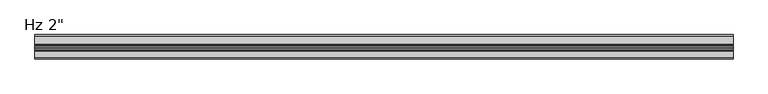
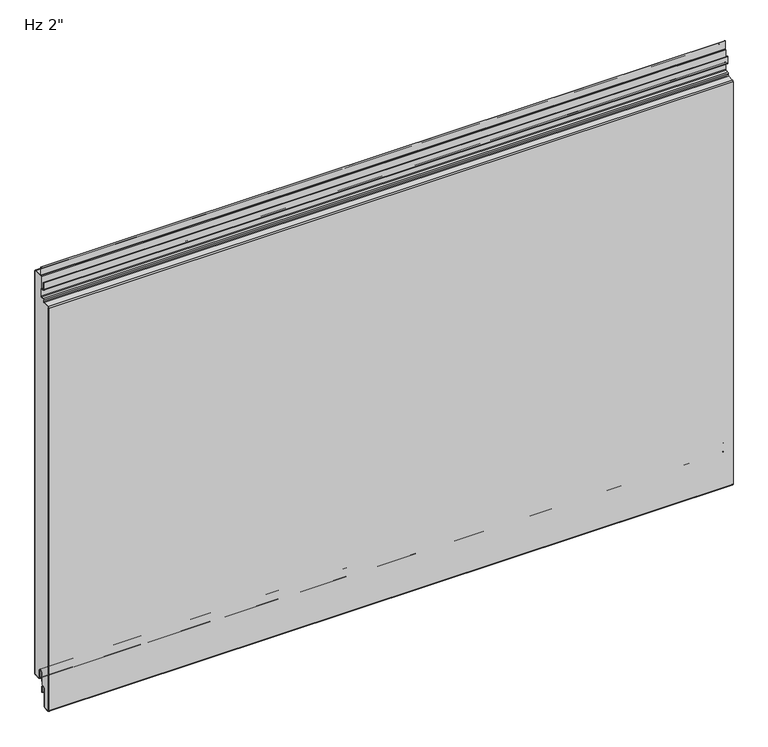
"""IFC4 building model written with IfcOpenShell, lengths in millimetres: plate geometry."""

from ifc_helpers import new_model, si_unit, point, frame, frame_2d, origin, place, context, project, spatial, polyline, circle_curve, ellipse_curve, trimmed, segment, composite_curve, outline, extrude, source, transform, mapped, element, save
from ifc_brep_helpers import plane_surface, cylinder_surface, revolved_surface, extruded_surface, advanced_brep


def plate_d5d736a9(model_context):
    return source(origin(), model_context, "Body", "SolidModel", [
        extrude(outline(composite_curve([segment(polyline([(-22.8125, 869.3620957), (-22.8125, 912.60625), (-2.38125, 912.60625)]), True, "CONTINUOUS"), segment(trimmed(circle_curve(frame_2d((-2.38125, 911.225)), 1.38125), [point((-2.38125, 912.60625))], [point((-1.0, 911.225))], False, "CARTESIAN"), True, "CONTINUOUS"), segment(polyline([(-1.0, 911.225), (-1.0, 3.175)]), True, "CONTINUOUS"), segment(trimmed(circle_curve(frame_2d((-2.38125, 3.175)), 1.38125), [point((-1.0, 3.175))], [point((-2.38125, 1.79375))], False, "CARTESIAN"), True, "CONTINUOUS"), segment(polyline([(-2.38125, 1.79375), (-15.08125, 1.79375)]), True, "CONTINUOUS"), segment(trimmed(circle_curve(frame_2d((-15.08125, 3.175)), 1.38125), [point((-15.08125, 1.79375))], [point((-16.4625, 3.175))], False, "CARTESIAN"), True, "CONTINUOUS"), segment(polyline([(-16.4625, 3.175), (-16.4625, 19.05)]), True, "CONTINUOUS"), segment(trimmed(circle_curve(frame_2d((-21.43125, 19.05)), 4.96875), [point((-16.4625, 19.05))], [point((-26.4, 19.05))], True, "CARTESIAN"), True, "CONTINUOUS"), segment(polyline([(-26.4, 19.05), (-26.4, -6.9375), (-30.95625, -6.9375)]), True, "CONTINUOUS"), segment(trimmed(circle_curve(frame_2d((-30.95625, -11.90625)), 4.96875), [point((-30.95625, -6.9375))], [point((-35.925, -11.90625))], True, "CARTESIAN"), True, "CONTINUOUS"), segment(polyline([(-35.925, -11.90625), (-35.925, -50.0895546)]), True, "CONTINUOUS"), segment(trimmed(circle_curve(frame_2d((-37.30625, -50.0895546)), 1.38125), [point((-35.925, -50.0895546))], [point((-37.233961, -51.4689117))], False, "CARTESIAN"), True, "CONTINUOUS"), segment(polyline([(-37.233961, -51.4689117), (-48.346461, -52.0512931)]), True, "CONTINUOUS"), segment(trimmed(circle_curve(frame_2d((-48.41875, -50.6719361)), 1.38125), [point((-48.346461, -52.0512931))], [point((-49.8, -50.6719361))], False, "CARTESIAN"), True, "CONTINUOUS"), segment(polyline([(-49.8, -50.6719361), (-49.8, 857.3715281)]), True, "CONTINUOUS"), segment(trimmed(circle_curve(frame_2d((-48.41875, 857.3715281)), 1.38125), [point((-49.8, 857.3715281))], [point((-48.491039, 858.7508852))], False, "CARTESIAN"), True, "CONTINUOUS"), segment(polyline([(-48.491039, 858.7508852), (-34.7895807, 859.4689482)]), True, "CONTINUOUS"), segment(trimmed(circle_curve(frame_2d((-34.925, 862.0529021)), 2.5875), [point((-34.7895807, 859.4689482))], [point((-32.3375, 862.0529021))], True, "CARTESIAN"), True, "CONTINUOUS"), segment(polyline([(-32.3375, 862.0529021), (-32.3375, 865.0967085)]), True, "CONTINUOUS"), segment(trimmed(circle_curve(frame_2d((-30.95625, 865.0967085)), 1.38125), [point((-32.3375, 865.0967085))], [point((-31.028539, 866.4760655))], False, "CARTESIAN"), True, "CONTINUOUS"), segment(polyline([(-31.028539, 866.4760655), (-25.2645807, 866.7781418)]), True, "CONTINUOUS"), segment(trimmed(circle_curve(frame_2d((-25.4, 869.3620957)), 2.5875), [point((-25.2645807, 866.7781418))], [point((-22.8125, 869.3620957))], True, "CARTESIAN"), True, "CONTINUOUS")], self_intersect=False)), frame((-730.0, 0.0, 0.0), z_axis=(1.0, 0.0, 0.0), x_axis=(0.0, 1.0, 0.0)), (0.0, 0.0, 1.0), 1460.0),
        extrude(outline(composite_curve([segment(polyline([(-25.4, 0.79375), (-26.4, 0.79375), (-26.4, 19.05)]), True, "CONTINUOUS"), segment(trimmed(circle_curve(frame_2d((-21.43125, 19.05)), 4.96875), [point((-26.4, 19.05))], [point((-16.4625, 19.05))], False, "CARTESIAN"), True, "CONTINUOUS"), segment(polyline([(-16.4625, 19.05), (-16.4625, 3.175)]), True, "CONTINUOUS"), segment(trimmed(circle_curve(frame_2d((-15.08125, 3.175)), 1.38125), [point((-16.4625, 3.175))], [point((-15.08125, 1.79375))], True, "CARTESIAN"), True, "CONTINUOUS"), segment(polyline([(-15.08125, 1.79375), (-2.38125, 1.79375)]), True, "CONTINUOUS"), segment(trimmed(circle_curve(frame_2d((-2.38125, 3.175)), 1.38125), [point((-2.38125, 1.79375))], [point((-1.0, 3.175))], True, "CARTESIAN"), True, "CONTINUOUS"), segment(polyline([(-1.0, 3.175), (-1.0, 911.225)]), True, "CONTINUOUS"), segment(trimmed(circle_curve(frame_2d((-2.38125, 911.225)), 1.38125), [point((-1.0, 911.225))], [point((-2.38125, 912.60625))], True, "CARTESIAN"), True, "CONTINUOUS"), segment(polyline([(-2.38125, 912.60625), (-19.446875, 912.60625)]), True, "CONTINUOUS"), segment(trimmed(circle_curve(frame_2d((-19.446875, 915.19375)), 2.5875), [point((-19.446875, 912.60625))], [point((-22.034375, 915.19375))], False, "CARTESIAN"), True, "CONTINUOUS"), segment(polyline([(-22.034375, 915.19375), (-22.034375, 932.65625), (-21.034375, 932.65625), (-21.034375, 915.19375)]), True, "CONTINUOUS"), segment(trimmed(circle_curve(frame_2d((-19.446875, 915.19375)), 1.5875), [point((-21.034375, 915.19375))], [point((-19.446875, 913.60625))], True, "CARTESIAN"), True, "CONTINUOUS"), segment(polyline([(-19.446875, 913.60625), (-2.38125, 913.60625)]), True, "CONTINUOUS"), segment(trimmed(circle_curve(frame_2d((-2.38125, 911.225)), 2.38125), [point((-2.38125, 913.60625))], [point((0.0, 911.225))], False, "CARTESIAN"), True, "CONTINUOUS"), segment(polyline([(0.0, 911.225), (0.0, 3.175)]), True, "CONTINUOUS"), segment(trimmed(circle_curve(frame_2d((-2.38125, 3.175)), 2.38125), [point((0.0, 3.175))], [point((-2.38125, 0.79375))], False, "CARTESIAN"), True, "CONTINUOUS"), segment(polyline([(-2.38125, 0.79375), (-15.08125, 0.79375)]), True, "CONTINUOUS"), segment(trimmed(circle_curve(frame_2d((-15.08125, 3.175)), 2.38125), [point((-15.08125, 0.79375))], [point((-17.4625, 3.175))], False, "CARTESIAN"), True, "CONTINUOUS"), segment(polyline([(-17.4625, 3.175), (-17.4625, 19.05)]), True, "CONTINUOUS"), segment(trimmed(circle_curve(frame_2d((-21.43125, 19.05)), 3.96875), [point((-17.4625, 19.05))], [point((-25.4, 19.05))], True, "CARTESIAN"), True, "CONTINUOUS"), segment(polyline([(-25.4, 19.05), (-25.4, 0.79375)]), True, "CONTINUOUS")], self_intersect=False)), frame((-730.0, 0.0, 0.0), z_axis=(1.0, 0.0, 0.0), x_axis=(0.0, 1.0, 0.0)), (0.0, 0.0, 1.0), 1460.0),
        advanced_brep(
        [(-730.0, -25.4, -23.2314549), (-730.0, -26.9875, -23.2314549), (-730.0, -26.9875, -11.9205174), (-730.0, -34.925, -11.9205174), (-730.0, -34.925, -50.1038221), (-730.0, -37.181625, -52.4818086), (-730.0, -48.294125, -53.0641901), (-730.0, -50.8, -50.6862035), (-730.0, -50.8, 857.3572607), (-730.0, -48.543375, 859.7352473), (-730.0, -34.8419167, 860.4533103), (-730.0, -33.3375, 862.0386347), (-730.0, -33.3375, 865.0824411), (-730.0, -31.080875, 867.4604276), (-730.0, -25.3169167, 867.7625039), (-730.0, -23.8125, 869.3478283), (-730.0, -23.8125, 884.2232326), (-730.0, -25.4, 885.8107326), (-730.0, -29.5671875, 885.8107326), (-730.0, -31.9484375, 888.1919826), (-730.0, -31.9484375, 902.6836032), (-730.0, -30.1546875, 902.6836032), (-730.0, -30.1546875, 892.9544826), (-730.0, -30.9484375, 892.9544826), (-730.0, -30.9484375, 888.1919826), (-730.0, -29.5671875, 886.8107326), (-730.0, -25.4, 886.8107326), (-730.0, -22.8125, 884.2232326), (-730.0, -22.8125, 869.3478283), (-730.0, -25.2645807, 866.7638744), (-730.0, -31.028539, 866.4617981), (-730.0, -32.3375, 865.0824411), (-730.0, -32.3375, 862.0386347), (-730.0, -34.7895807, 859.4546807), (-730.0, -48.491039, 858.7366177), (-730.0, -49.8, 857.3572607), (-730.0, -49.8, -50.6862035), (-730.0, -48.346461, -52.0655606), (-730.0, -37.233961, -51.4831791), (-730.0, -35.925, -50.1038221), (-730.0, -35.925, -11.9205174), (-730.0, -25.9875, -11.9205174), (-730.0, -26.19375, -13.5080174), (-730.0, -25.4, -13.5080174), (730.0, -25.4, -23.2314549), (730.0, -25.4, -13.5080174), (730.0, -26.19375, -13.5080174), (730.0, -25.9875, -11.9205174), (730.0, -35.925, -11.9205174), (730.0, -35.925, -50.1038221), (730.0, -37.233961, -51.4831791), (730.0, -48.346461, -52.0655606), (730.0, -49.8, -50.6862035), (730.0, -49.8, 857.3572607), (730.0, -48.491039, 858.7366177), (730.0, -34.7895807, 859.4546807), (730.0, -32.3375, 862.0386347), (730.0, -32.3375, 865.0824411), (730.0, -31.028539, 866.4617981), (730.0, -25.2645807, 866.7638744), (730.0, -22.8125, 869.3478283), (730.0, -22.8125, 884.2232326), (730.0, -25.4, 886.8107326), (730.0, -29.5671875, 886.8107326), (730.0, -30.9484375, 888.1919826), (730.0, -30.9484375, 892.9544826), (730.0, -30.1546875, 892.9544826), (730.0, -30.1546875, 902.6836032), (730.0, -31.9484375, 902.6836032), (730.0, -31.9484375, 888.1919826), (730.0, -29.5671875, 885.8107326), (730.0, -25.4, 885.8107326), (730.0, -23.8125, 884.2232326), (730.0, -23.8125, 869.3478283), (730.0, -25.3169167, 867.7625039), (730.0, -31.080875, 867.4604276), (730.0, -33.3375, 865.0824411), (730.0, -33.3375, 862.0386347), (730.0, -34.8419167, 860.4533103), (730.0, -48.543375, 859.7352473), (730.0, -50.8, 857.3572607), (730.0, -50.8, -50.6862035), (730.0, -48.294125, -53.0641901), (730.0, -37.181625, -52.4818086), (730.0, -34.925, -50.1038221), (730.0, -34.925, -11.9205174), (730.0, -26.9875, -11.9205174), (730.0, -26.9875, -23.2314549)],
        [
            (0, 1, circle_curve(frame((-730.0, -26.19375, -23.2314549), z_axis=(-1.0, 0.0, 0.0), x_axis=(0.0, 0.0, 1.0)), 0.79375)),
            (1, 2),
            (2, 3, circle_curve(frame((-730.0, -30.95625, -11.9205174), z_axis=(1.0, 0.0, 0.0), x_axis=(0.0, 0.0, 1.0)), 3.96875)),
            (3, 4),
            (4, 5, circle_curve(frame((-730.0, -37.30625, -50.1038221), z_axis=(-1.0, 0.0, 0.0), x_axis=(0.0, 0.0, 1.0)), 2.38125)),
            (5, 6),
            (6, 7, circle_curve(frame((-730.0, -48.41875, -50.6862035), z_axis=(-1.0, 0.0, 0.0), x_axis=(0.0, 0.0, 1.0)), 2.38125)),
            (7, 8),
            (8, 9, circle_curve(frame((-730.0, -48.41875, 857.3572607), z_axis=(-1.0, 0.0, 0.0), x_axis=(0.0, 0.0, 1.0)), 2.38125)),
            (9, 10),
            (10, 11, circle_curve(frame((-730.0, -34.925, 862.0386347), z_axis=(1.0, 0.0, 0.0), x_axis=(0.0, 0.0, 1.0)), 1.5875)),
            (11, 12),
            (12, 13, circle_curve(frame((-730.0, -30.95625, 865.0824411), z_axis=(-1.0, 0.0, 0.0), x_axis=(0.0, 0.0, 1.0)), 2.38125)),
            (13, 14),
            (14, 15, circle_curve(frame((-730.0, -25.4, 869.3478283), z_axis=(1.0, 0.0, 0.0), x_axis=(0.0, 0.0, 1.0)), 1.5875)),
            (15, 16),
            (16, 17, circle_curve(frame((-730.0, -25.4, 884.2232326), z_axis=(1.0, 0.0, 0.0), x_axis=(0.0, 0.0, 1.0)), 1.5875)),
            (17, 18),
            (18, 19, circle_curve(frame((-730.0, -29.5671875, 888.1919826), z_axis=(-1.0, 0.0, 0.0), x_axis=(0.0, 0.0, 1.0)), 2.38125)),
            (19, 20),
            (20, 21, ellipse_curve(frame((-730.0, -31.0515625, 902.6836032), z_axis=(-1.0, 0.0, 0.0), x_axis=(0.0, 1.0, 0.0)), 0.896875, 0.7852275)),
            (21, 22),
            (22, 23),
            (23, 24),
            (24, 25, circle_curve(frame((-730.0, -29.5671875, 888.1919826), z_axis=(1.0, 0.0, 0.0), x_axis=(0.0, 0.0, 1.0)), 1.38125)),
            (25, 26),
            (26, 27, circle_curve(frame((-730.0, -25.4, 884.2232326), z_axis=(-1.0, 0.0, 0.0), x_axis=(0.0, 0.0, 1.0)), 2.5875)),
            (27, 28),
            (28, 29, circle_curve(frame((-730.0, -25.4, 869.3478283), z_axis=(-1.0, 0.0, 0.0), x_axis=(0.0, 0.0, 1.0)), 2.5875)),
            (29, 30),
            (30, 31, circle_curve(frame((-730.0, -30.95625, 865.0824411), z_axis=(1.0, 0.0, 0.0), x_axis=(0.0, 0.0, 1.0)), 1.38125)),
            (31, 32),
            (32, 33, circle_curve(frame((-730.0, -34.925, 862.0386347), z_axis=(-1.0, 0.0, 0.0), x_axis=(0.0, 0.0, 1.0)), 2.5875)),
            (33, 34),
            (34, 35, circle_curve(frame((-730.0, -48.41875, 857.3572607), z_axis=(1.0, 0.0, 0.0), x_axis=(0.0, 0.0, 1.0)), 1.38125)),
            (35, 36),
            (36, 37, circle_curve(frame((-730.0, -48.41875, -50.6862035), z_axis=(1.0, 0.0, 0.0), x_axis=(0.0, 0.0, 1.0)), 1.38125)),
            (37, 38),
            (38, 39, circle_curve(frame((-730.0, -37.30625, -50.1038221), z_axis=(1.0, 0.0, 0.0), x_axis=(0.0, 0.0, 1.0)), 1.38125)),
            (39, 40),
            (40, 41, circle_curve(frame((-730.0, -30.95625, -11.9205174), z_axis=(-1.0, 0.0, 0.0), x_axis=(0.0, 0.0, 1.0)), 4.96875)),
            (41, 42),
            (42, 43),
            (43, 0),
            (44, 45),
            (45, 46),
            (46, 47),
            (47, 48, circle_curve(frame((730.0, -30.95625, -11.9205174), z_axis=(1.0, 0.0, 0.0), x_axis=(0.0, 0.0, 1.0)), 4.96875)),
            (48, 49),
            (49, 50, circle_curve(frame((730.0, -37.30625, -50.1038221), z_axis=(-1.0, 0.0, 0.0), x_axis=(0.0, 0.0, 1.0)), 1.38125)),
            (50, 51),
            (51, 52, circle_curve(frame((730.0, -48.41875, -50.6862035), z_axis=(-1.0, 0.0, 0.0), x_axis=(0.0, 0.0, 1.0)), 1.38125)),
            (52, 53),
            (53, 54, circle_curve(frame((730.0, -48.41875, 857.3572607), z_axis=(-1.0, 0.0, 0.0), x_axis=(0.0, 0.0, 1.0)), 1.38125)),
            (54, 55),
            (55, 56, circle_curve(frame((730.0, -34.925, 862.0386347), z_axis=(1.0, 0.0, 0.0), x_axis=(0.0, 0.0, 1.0)), 2.5875)),
            (56, 57),
            (57, 58, circle_curve(frame((730.0, -30.95625, 865.0824411), z_axis=(-1.0, 0.0, 0.0), x_axis=(0.0, 0.0, 1.0)), 1.38125)),
            (58, 59),
            (59, 60, circle_curve(frame((730.0, -25.4, 869.3478283), z_axis=(1.0, 0.0, 0.0), x_axis=(0.0, 0.0, 1.0)), 2.5875)),
            (60, 61),
            (61, 62, circle_curve(frame((730.0, -25.4, 884.2232326), z_axis=(1.0, 0.0, 0.0), x_axis=(0.0, 0.0, 1.0)), 2.5875)),
            (62, 63),
            (63, 64, circle_curve(frame((730.0, -29.5671875, 888.1919826), z_axis=(-1.0, 0.0, 0.0), x_axis=(0.0, 0.0, 1.0)), 1.38125)),
            (64, 65),
            (65, 66),
            (66, 67),
            (67, 68, ellipse_curve(frame((730.0, -31.0515625, 902.6836032), z_axis=(1.0, 0.0, 0.0), x_axis=(0.0, 1.0, 0.0)), 0.896875, 0.7852275)),
            (68, 69),
            (69, 70, circle_curve(frame((730.0, -29.5671875, 888.1919826), z_axis=(1.0, 0.0, 0.0), x_axis=(0.0, 0.0, 1.0)), 2.38125)),
            (70, 71),
            (71, 72, circle_curve(frame((730.0, -25.4, 884.2232326), z_axis=(-1.0, 0.0, 0.0), x_axis=(0.0, 0.0, 1.0)), 1.5875)),
            (72, 73),
            (73, 74, circle_curve(frame((730.0, -25.4, 869.3478283), z_axis=(-1.0, 0.0, 0.0), x_axis=(0.0, 0.0, 1.0)), 1.5875)),
            (74, 75),
            (75, 76, circle_curve(frame((730.0, -30.95625, 865.0824411), z_axis=(1.0, 0.0, 0.0), x_axis=(0.0, 0.0, 1.0)), 2.38125)),
            (76, 77),
            (77, 78, circle_curve(frame((730.0, -34.925, 862.0386347), z_axis=(-1.0, 0.0, 0.0), x_axis=(0.0, 0.0, 1.0)), 1.5875)),
            (78, 79),
            (79, 80, circle_curve(frame((730.0, -48.41875, 857.3572607), z_axis=(1.0, 0.0, 0.0), x_axis=(0.0, 0.0, 1.0)), 2.38125)),
            (80, 81),
            (81, 82, circle_curve(frame((730.0, -48.41875, -50.6862035), z_axis=(1.0, 0.0, 0.0), x_axis=(0.0, 0.0, 1.0)), 2.38125)),
            (82, 83),
            (83, 84, circle_curve(frame((730.0, -37.30625, -50.1038221), z_axis=(1.0, 0.0, 0.0), x_axis=(0.0, 0.0, 1.0)), 2.38125)),
            (84, 85),
            (85, 86, circle_curve(frame((730.0, -30.95625, -11.9205174), z_axis=(-1.0, 0.0, 0.0), x_axis=(0.0, 0.0, 1.0)), 3.96875)),
            (86, 87),
            (87, 44, circle_curve(frame((730.0, -26.19375, -23.2314549), z_axis=(1.0, 0.0, 0.0), x_axis=(0.0, 0.0, 1.0)), 0.79375)),
            (23, 65),
            (64, 24),
            (28, 60),
            (59, 29),
            (58, 30),
            (57, 31),
            (56, 32),
            (55, 33),
            (54, 34),
            (53, 35),
            (52, 36),
            (51, 37),
            (50, 38),
            (49, 39),
            (48, 40),
            (43, 45),
            (44, 0),
            (87, 1),
            (86, 2),
            (85, 3),
            (84, 4),
            (83, 5),
            (82, 6),
            (81, 7),
            (80, 8),
            (79, 9),
            (78, 10),
            (77, 11),
            (76, 12),
            (75, 13),
            (74, 14),
            (73, 15),
            (72, 16),
            (71, 17),
            (70, 18),
            (69, 19),
            (68, 20),
            (27, 61),
            (26, 62),
            (25, 63),
            (21, 67),
            (66, 22),
            (41, 47),
            (46, 42),
        ],
        [
            plane_surface(frame((-730.0, -50.8, 457.2), z_axis=(-1.0, 0.0, 0.0), x_axis=(0.0, -1.0, 0.0))),
            plane_surface(frame((730.0, -50.8, 457.2), z_axis=(1.0, 0.0, 0.0), x_axis=(0.0, -1.0, 0.0))),
            plane_surface(frame((-730.0, -30.9484375, 888.1919826), z_axis=(0.0, 1.0, 0.0), x_axis=(1.0, 0.0, 0.0))),
            cylinder_surface(frame((-730.0, -25.4, 869.3478283), z_axis=(-1.0, 0.0, 0.0), x_axis=(0.0, 0.0, 1.0)), 2.5875),
            plane_surface(frame((-730.0, -31.028539, 866.4617981), z_axis=(0.0, 0.0523359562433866, -0.9986295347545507), x_axis=(1.0, 0.0, 0.0))),
            revolved_surface(polyline([(730.0, -30.95625, 866.4636911), (-730.0, -30.95625, 866.4636911)]), (-730.0, -30.95625, 865.0824411), (1.0, 0.0, 0.0)),
            plane_surface(frame((-730.0, -32.3375, 862.0386347), z_axis=(0.0, 1.0, 0.0), x_axis=(1.0, 0.0, 0.0))),
            cylinder_surface(frame((-730.0, -34.925, 862.0386347), z_axis=(-1.0, 0.0, 0.0), x_axis=(0.0, 0.0, 1.0)), 2.5875),
            plane_surface(frame((-730.0, -48.491039, 858.7366177), z_axis=(0.0, 0.05233595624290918, -0.9986295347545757), x_axis=(1.0, 0.0, 0.0))),
            revolved_surface(polyline([(730.0, -48.41875, 858.7385107), (-730.0, -48.41875, 858.7385107)]), (-730.0, -48.41875, 857.3572607), (1.0, 0.0, 0.0)),
            plane_surface(frame((-730.0, -49.8, -50.6862035), z_axis=(0.0, 1.0, 0.0), x_axis=(1.0, 0.0, 0.0))),
            revolved_surface(polyline([(730.0, -48.41875, -49.304953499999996), (-730.0, -48.41875, -49.304953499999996)]), (-730.0, -48.41875, -50.6862035), (1.0, 0.0, 0.0)),
            plane_surface(frame((-730.0, -37.233961, -51.4831791), z_axis=(0.0, -0.05233595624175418, 0.9986295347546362), x_axis=(1.0, 0.0, 0.0))),
            revolved_surface(polyline([(730.0, -37.30625, -48.7225721), (-730.0, -37.30625, -48.7225721)]), (-730.0, -37.30625, -50.1038221), (1.0, 0.0, 0.0)),
            plane_surface(frame((-730.0, -35.925, -11.9205174), z_axis=(0.0, -1.0, 0.0), x_axis=(1.0, 0.0, 0.0))),
            plane_surface(frame((-730.0, -25.4, -23.2314549), z_axis=(0.0, 1.0, 0.0), x_axis=(1.0, 0.0, 0.0))),
            cylinder_surface(frame((-730.0, -26.19375, -23.2314549), z_axis=(-1.0, 0.0, 0.0), x_axis=(0.0, 0.0, 1.0)), 0.79375),
            plane_surface(frame((-730.0, -26.9875, -11.9205174), z_axis=(0.0, -1.0, 0.0), x_axis=(1.0, 0.0, 0.0))),
            revolved_surface(polyline([(730.0, -30.95625, -7.9517674), (-730.0, -30.95625, -7.9517674)]), (-730.0, -30.95625, -11.9205174), (1.0, 0.0, 0.0)),
            plane_surface(frame((-730.0, -34.925, -50.1038221), z_axis=(0.0, 1.0, 0.0), x_axis=(1.0, 0.0, 0.0))),
            cylinder_surface(frame((-730.0, -37.30625, -50.1038221), z_axis=(-1.0, 0.0, 0.0), x_axis=(0.0, 0.0, 1.0)), 2.38125),
            plane_surface(frame((-730.0, -48.294125, -53.0641901), z_axis=(0.0, 0.05233595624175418, -0.9986295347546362), x_axis=(1.0, 0.0, 0.0))),
            cylinder_surface(frame((-730.0, -48.41875, -50.6862035), z_axis=(-1.0, 0.0, 0.0), x_axis=(0.0, 0.0, 1.0)), 2.38125),
            plane_surface(frame((-730.0, -50.8, 857.3572607), z_axis=(0.0, -1.0, 0.0), x_axis=(1.0, 0.0, 0.0))),
            cylinder_surface(frame((-730.0, -48.41875, 857.3572607), z_axis=(-1.0, 0.0, 0.0), x_axis=(0.0, 0.0, 1.0)), 2.38125),
            plane_surface(frame((-730.0, -34.8419167, 860.4533103), z_axis=(0.0, -0.052335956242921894, 0.998629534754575), x_axis=(1.0, 0.0, 0.0))),
            revolved_surface(polyline([(730.0, -34.925, 863.6261347), (-730.0, -34.925, 863.6261347)]), (-730.0, -34.925, 862.0386347), (1.0, 0.0, 0.0)),
            plane_surface(frame((-730.0, -33.3375, 865.0824411), z_axis=(0.0, -1.0, 0.0), x_axis=(1.0, 0.0, 0.0))),
            cylinder_surface(frame((-730.0, -30.95625, 865.0824411), z_axis=(-1.0, 0.0, 0.0), x_axis=(0.0, 0.0, 1.0)), 2.38125),
            plane_surface(frame((-730.0, -25.3169167, 867.7625039), z_axis=(0.0, -0.05233595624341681, 0.9986295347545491), x_axis=(1.0, 0.0, 0.0))),
            revolved_surface(polyline([(730.0, -25.4, 870.9353282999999), (-730.0, -25.4, 870.9353282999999)]), (-730.0, -25.4, 869.3478283), (1.0, 0.0, 0.0)),
            plane_surface(frame((-730.0, -23.8125, 884.2232326), z_axis=(0.0, -1.0, 0.0), x_axis=(1.0, 0.0, 0.0))),
            revolved_surface(polyline([(730.0, -25.4, 885.8107325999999), (-730.0, -25.4, 885.8107325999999)]), (-730.0, -25.4, 884.2232326), (1.0, 0.0, 0.0)),
            plane_surface(frame((-730.0, -29.5671875, 885.8107326), z_axis=(0.0, 0.0, -1.0), x_axis=(1.0, 0.0, 0.0))),
            cylinder_surface(frame((-730.0, -29.5671875, 888.1919826), z_axis=(-1.0, 0.0, 0.0), x_axis=(0.0, 0.0, 1.0)), 2.38125),
            plane_surface(frame((-730.0, -31.9484375, 902.6836032), z_axis=(0.0, -1.0, 0.0), x_axis=(1.0, 0.0, 0.0))),
            plane_surface(frame((-730.0, -22.8125, 869.3478283), z_axis=(0.0, 1.0, 0.0), x_axis=(1.0, 0.0, 0.0))),
            cylinder_surface(frame((-730.0, -25.4, 884.2232326), z_axis=(-1.0, 0.0, 0.0), x_axis=(0.0, 0.0, 1.0)), 2.5875),
            plane_surface(frame((-730.0, -25.4, 886.8107326), z_axis=(0.0, 0.0, 1.0), x_axis=(1.0, 0.0, 0.0))),
            revolved_surface(polyline([(730.0, -29.5671875, 889.5732326), (-730.0, -29.5671875, 889.5732326)]), (-730.0, -29.5671875, 888.1919826), (1.0, 0.0, 0.0)),
            plane_surface(frame((-730.0, -30.1546875, 892.9544826), z_axis=(0.0, 1.0, 0.0), x_axis=(1.0, 0.0, 0.0))),
            extruded_surface(trimmed(ellipse_curve(frame((-730.0, -31.0515625, 902.6836032), z_axis=(1.0, 0.0, 0.0), x_axis=(0.0, 1.0, 0.0)), 0.896875, 0.7852275), [point((-730.0, -30.1546875, 902.6836032))], [point((-730.0, -31.9484375, 902.6836032))], True, "CARTESIAN"), (1460.0, 0.0, 0.0), 1460.0),
            plane_surface(frame((-730.0, -26.19375, -13.5080174), z_axis=(0.0, 0.9916655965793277, -0.12883844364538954), x_axis=(1.0, 0.0, 0.0))),
            cylinder_surface(frame((-730.0, -30.95625, -11.9205174), z_axis=(-1.0, 0.0, 0.0), x_axis=(0.0, 0.0, 1.0)), 4.96875),
            plane_surface(frame((-730.0, -25.4, -13.5080174), z_axis=(0.0, 0.0, 1.0), x_axis=(1.0, 0.0, 0.0))),
            plane_surface(frame((-730.0, -30.9484375, 892.9544826), z_axis=(0.0, 0.0, -1.0), x_axis=(1.0, 0.0, 0.0))),
        ],
        [
            (0, [[1, 2, 3, 4, 5, 6, 7, 8, 9, 10, 11, 12, 13, 14, 15, 16, 17, 18, 19, 20, 21, 22, 23, 24, 25, 26, 27, 28, 29, 30, 31, 32, 33, 34, 35, 36, 37, 38, 39, 40, 41, 42, 43, 44]]),
            (1, [[45, 46, 47, 48, 49, 50, 51, 52, 53, 54, 55, 56, 57, 58, 59, 60, 61, 62, 63, 64, 65, 66, 67, 68, 69, 70, 71, 72, 73, 74, 75, 76, 77, 78, 79, 80, 81, 82, 83, 84, 85, 86, 87, 88]]),
            (2, [[89, -65, 90, -24]]),
            (3, [[91, -60, 92, -29]]),
            (4, [[-92, -59, 93, -30]]),
            (5, [[-93, -58, 94, -31]]),
            (6, [[-94, -57, 95, -32]]),
            (7, [[-95, -56, 96, -33]]),
            (8, [[-96, -55, 97, -34]]),
            (9, [[-97, -54, 98, -35]]),
            (10, [[-98, -53, 99, -36]]),
            (11, [[-99, -52, 100, -37]]),
            (12, [[-100, -51, 101, -38]]),
            (13, [[-101, -50, 102, -39]]),
            (14, [[-102, -49, 103, -40]]),
            (15, [[104, -45, 105, -44]]),
            (16, [[-105, -88, 106, -1]]),
            (17, [[-106, -87, 107, -2]]),
            (18, [[-107, -86, 108, -3]]),
            (19, [[-108, -85, 109, -4]]),
            (20, [[-109, -84, 110, -5]]),
            (21, [[-110, -83, 111, -6]]),
            (22, [[-111, -82, 112, -7]]),
            (23, [[-112, -81, 113, -8]]),
            (24, [[-113, -80, 114, -9]]),
            (25, [[-114, -79, 115, -10]]),
            (26, [[-115, -78, 116, -11]]),
            (27, [[-116, -77, 117, -12]]),
            (28, [[-117, -76, 118, -13]]),
            (29, [[-118, -75, 119, -14]]),
            (30, [[-119, -74, 120, -15]]),
            (31, [[-120, -73, 121, -16]]),
            (32, [[-121, -72, 122, -17]]),
            (33, [[-122, -71, 123, -18]]),
            (34, [[-123, -70, 124, -19]]),
            (35, [[-124, -69, 125, -20]]),
            (36, [[126, -61, -91, -28]]),
            (37, [[127, -62, -126, -27]]),
            (38, [[128, -63, -127, -26]]),
            (39, [[-90, -64, -128, -25]]),
            (40, [[129, -67, 130, -22]]),
            (41, [[-125, -68, -129, -21]]),
            (42, [[131, -47, 132, -42]]),
            (43, [[-103, -48, -131, -41]]),
            (44, [[-132, -46, -104, -43]]),
            (45, [[-130, -66, -89, -23]]),
        ],
    ),
    ])


if __name__ == "__main__":
    model = new_model("IFC4")
    model_context = context("Model", 3, world=origin())
    ifc_project = project(units=[si_unit("LENGTHUNIT", "METRE", prefix="MILLI")], contexts=[model_context])
    site = spatial("IfcSite", under=ifc_project)
    building = spatial("IfcBuilding", under=site)
    placement = place(None, origin())
    plate_shape = plate_d5d736a9(model_context)
    element("IfcPlate", 1, ObjectType="KIP-36-DWTR-R19-CP-Hz-F : Hz 2\"", at=placement, inside=building, context=model_context, shape_type="MappedRepresentation", body=[
        mapped(plate_shape, transform((0.0, 0.0, 0.0), x_axis=(1.0, 0.0, 0.0), y_axis=(0.0, 1.0, 0.0), z_axis=(0.0, 0.0, 1.0))),
    ])
    save(model, "model.ifc")
